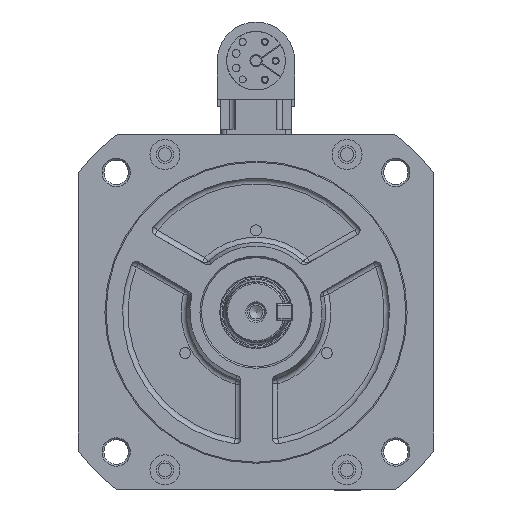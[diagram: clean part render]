
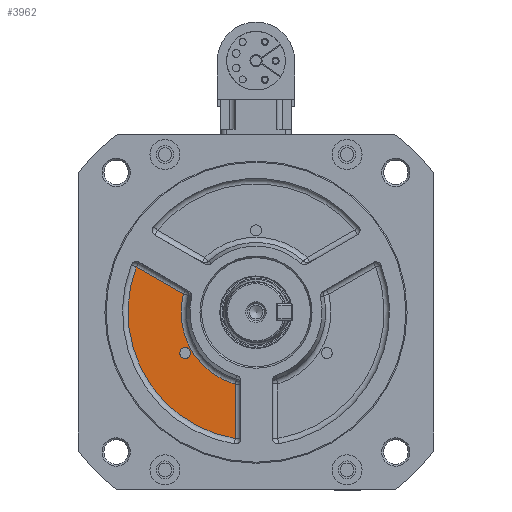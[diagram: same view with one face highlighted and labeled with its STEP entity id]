
A CAD part, left-side view. The second image highlights one B-rep face of the part: STEP entity #3962.
In plain terms, the highlighted planar face has unit normal (-1, 0, 0) as drawn and (0, -1, 0) by its records, which use the part's own axes.
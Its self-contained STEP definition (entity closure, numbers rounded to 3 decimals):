
#3962 = ADVANCED_FACE( '', ( #8720, #8721 ), #8722, .T. );
#8720 = FACE_OUTER_BOUND( '', #15632, .T. );
#8721 = FACE_BOUND( '', #15633, .T. );
#8722 = PLANE( '', #15634 );
#15632 = EDGE_LOOP( '', ( #29767, #29768, #29769, #29770 ) );
#15633 = EDGE_LOOP( '', ( #29771 ) );
#15634 = AXIS2_PLACEMENT_3D( '', #29772, #29773, #29774 );
#29767 = ORIENTED_EDGE( '', *, *, #40828, .T. );
#29768 = ORIENTED_EDGE( '', *, *, #40629, .T. );
#29769 = ORIENTED_EDGE( '', *, *, #40427, .T. );
#29770 = ORIENTED_EDGE( '', *, *, #40829, .T. );
#29771 = ORIENTED_EDGE( '', *, *, #40202, .T. );
#29772 = CARTESIAN_POINT( '', ( 0.069, -28., 0.04 ) );
#29773 = DIRECTION( '', ( 0., -1., 0. ) );
#29774 = DIRECTION( '', ( 0., 0., -1. ) );
#40202 = EDGE_CURVE( '', #48787, #48787, #48788, .T. );
#40427 = EDGE_CURVE( '', #46649, #49091, #49093, .T. );
#40629 = EDGE_CURVE( '', #44975, #46649, #49381, .T. );
#40828 = EDGE_CURVE( '', #47944, #44975, #49631, .T. );
#40829 = EDGE_CURVE( '', #49091, #47944, #49632, .T. );
#44975 = VERTEX_POINT( '', #56960 );
#46649 = VERTEX_POINT( '', #59643 );
#47944 = VERTEX_POINT( '', #61999 );
#48787 = VERTEX_POINT( '', #63889 );
#48788 = CIRCLE( '', #63890, 2. );
#49091 = VERTEX_POINT( '', #64527 );
#49093 = LINE( '', #64529, #64530 );
#49381 = CIRCLE( '', #64909, 47. );
#49631 = LINE( '', #65386, #65387 );
#49632 = CIRCLE( '', #65388, 27.5 );
#56960 = CARTESIAN_POINT( '', ( -43.922, -28., 16.587 ) );
#59643 = CARTESIAN_POINT( '', ( -7.596, -28., -46.331 ) );
#61999 = CARTESIAN_POINT( '', ( -26.687, -28., 6.637 ) );
#63889 = CARTESIAN_POINT( '', ( -24.249, -28., -14. ) );
#63890 = AXIS2_PLACEMENT_3D( '', #74853, #74854, #74855 );
#64527 = CARTESIAN_POINT( '', ( -7.596, -28., -26.43 ) );
#64529 = CARTESIAN_POINT( '', ( -7.596, -28., 0.04 ) );
#64530 = VECTOR( '', #75132, 1000. );
#64909 = AXIS2_PLACEMENT_3D( '', #75521, #75522, #75523 );
#65386 = CARTESIAN_POINT( '', ( -3.763, -28., -6.599 ) );
#65387 = VECTOR( '', #75736, 1000. );
#65388 = AXIS2_PLACEMENT_3D( '', #75737, #75738, #75739 );
#74853 = CARTESIAN_POINT( '', ( -25.981, -28., -15. ) );
#74854 = DIRECTION( '', ( 0., 1., 0. ) );
#74855 = DIRECTION( '', ( 0.866, 0., 0.5 ) );
#75132 = DIRECTION( '', ( 0., 0., 1. ) );
#75521 = CARTESIAN_POINT( '', ( 0.069, -28., 0.04 ) );
#75522 = DIRECTION( '', ( 0., -1., 0. ) );
#75523 = DIRECTION( '', ( 0., 0., -1. ) );
#75736 = DIRECTION( '', ( -0.866, 0., 0.5 ) );
#75737 = CARTESIAN_POINT( '', ( 0., -28., 0. ) );
#75738 = DIRECTION( '', ( 0., 1., 0. ) );
#75739 = DIRECTION( '', ( 0., 0., -1. ) );
